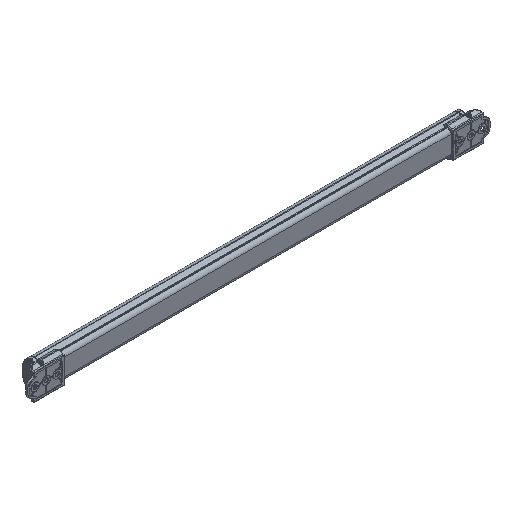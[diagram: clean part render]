
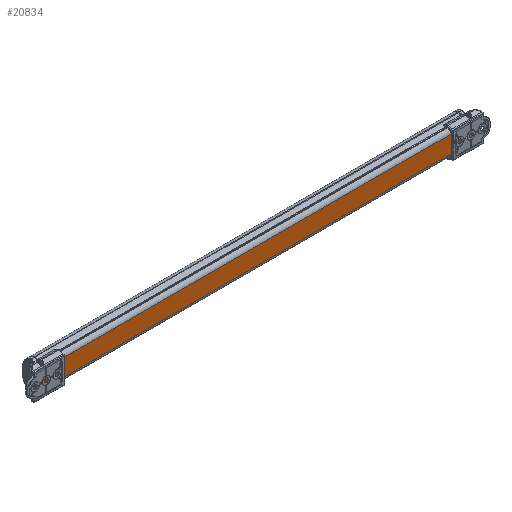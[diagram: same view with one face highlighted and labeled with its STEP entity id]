
A CAD part, isometric view. The second image highlights one B-rep face of the part: STEP entity #20834.
In plain terms, the highlighted planar face has unit normal (0, -1, 0).
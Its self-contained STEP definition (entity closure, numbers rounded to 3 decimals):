
#358 = VECTOR ( 'NONE', #9701, 1000. ) ;
#4192 = EDGE_CURVE ( 'NONE', #4906, #18587, #29886, .T. ) ;
#4906 = VERTEX_POINT ( 'NONE', #34234 ) ;
#6740 = CARTESIAN_POINT ( 'NONE',  ( -304.355, -13.877, 923.394 ) ) ;
#8694 = EDGE_CURVE ( 'NONE', #23882, #36787, #44598, .T. ) ;
#9080 = EDGE_LOOP ( 'NONE', ( #27831, #14689, #39559, #37158 ) ) ;
#9701 = DIRECTION ( 'NONE',  ( -1., 0., 0. ) ) ;
#12207 = DIRECTION ( 'NONE',  ( -1., 0., 0. ) ) ;
#14022 = LINE ( 'NONE', #31008, #29106 ) ;
#14466 = DIRECTION ( 'NONE',  ( 0., 0., -1. ) ) ;
#14689 = ORIENTED_EDGE ( 'NONE', *, *, #4192, .F. ) ;
#15505 = VECTOR ( 'NONE', #12207, 1000. ) ;
#16295 = CARTESIAN_POINT ( 'NONE',  ( -304.355, -13.877, 902.606 ) ) ;
#18109 = DIRECTION ( 'NONE',  ( 0., 0., 1. ) ) ;
#18587 = VERTEX_POINT ( 'NONE', #34911 ) ;
#19706 = EDGE_CURVE ( 'NONE', #36787, #18587, #14022, .T. ) ;
#20834 = ADVANCED_FACE ( 'NONE', ( #42350 ), #35542, .F. ) ;
#23882 = VERTEX_POINT ( 'NONE', #33537 ) ;
#25825 = CARTESIAN_POINT ( 'NONE',  ( -304.355, -13.877, 923.394 ) ) ;
#27831 = ORIENTED_EDGE ( 'NONE', *, *, #19706, .T. ) ;
#28051 = LINE ( 'NONE', #44608, #39109 ) ;
#29106 = VECTOR ( 'NONE', #14466, 1000. ) ;
#29876 = AXIS2_PLACEMENT_3D ( 'NONE', #25825, #39401, #18109 ) ;
#29886 = LINE ( 'NONE', #16295, #15505 ) ;
#31008 = CARTESIAN_POINT ( 'NONE',  ( -517.355, -13.877, 923.394 ) ) ;
#31473 = EDGE_CURVE ( 'NONE', #23882, #4906, #28051, .T. ) ;
#33537 = CARTESIAN_POINT ( 'NONE',  ( -4.355, -13.877, 923.394 ) ) ;
#34125 = CARTESIAN_POINT ( 'NONE',  ( -517.355, -13.877, 923.394 ) ) ;
#34234 = CARTESIAN_POINT ( 'NONE',  ( -4.355, -13.877, 902.606 ) ) ;
#34911 = CARTESIAN_POINT ( 'NONE',  ( -517.355, -13.877, 902.606 ) ) ;
#35542 = PLANE ( 'NONE',  #29876 ) ;
#36787 = VERTEX_POINT ( 'NONE', #34125 ) ;
#37158 = ORIENTED_EDGE ( 'NONE', *, *, #8694, .T. ) ;
#39109 = VECTOR ( 'NONE', #40990, 1000. ) ;
#39401 = DIRECTION ( 'NONE',  ( 0., 1., 0. ) ) ;
#39559 = ORIENTED_EDGE ( 'NONE', *, *, #31473, .F. ) ;
#40990 = DIRECTION ( 'NONE',  ( 0., 0., -1. ) ) ;
#42350 = FACE_OUTER_BOUND ( 'NONE', #9080, .T. ) ;
#44598 = LINE ( 'NONE', #6740, #358 ) ;
#44608 = CARTESIAN_POINT ( 'NONE',  ( -4.355, -13.877, 923.394 ) ) ;
